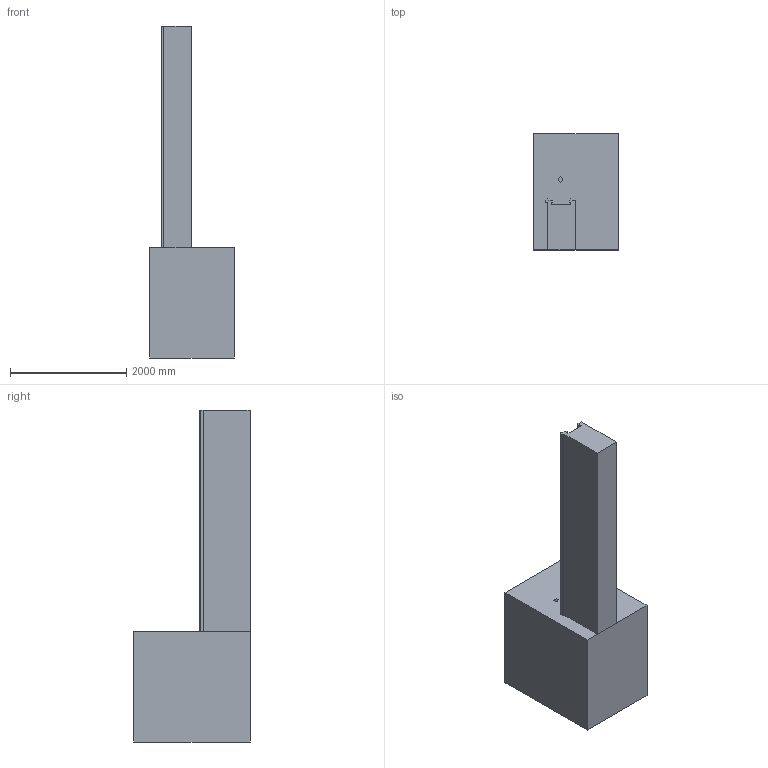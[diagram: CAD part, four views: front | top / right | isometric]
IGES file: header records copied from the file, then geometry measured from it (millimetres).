
Start section: This line is the first line of the start section. You can replace these lines and/or  add as many as you want.
Global section: file name: /dsk_ncs/ncsimul/support/trans/_bcd/bedplate.igs; native system: COMPUTERVISION CADDS5 REV 5.3.2 GRAPHIC SYSTEM; preprocessor: CV Translators IGES/VDA Revision 2.1, STEP Revision 1.2; author: Author; organization: Organization; date: 970731.111204; units: millimetre
Bounding box: 1460 x 2000 x 5720 mm (x, y, z)
Topology: 0 solids, 0 shells, 39 faces, 222 edges, 222 vertices
Faces by surface type: bspline 38, plane 1
